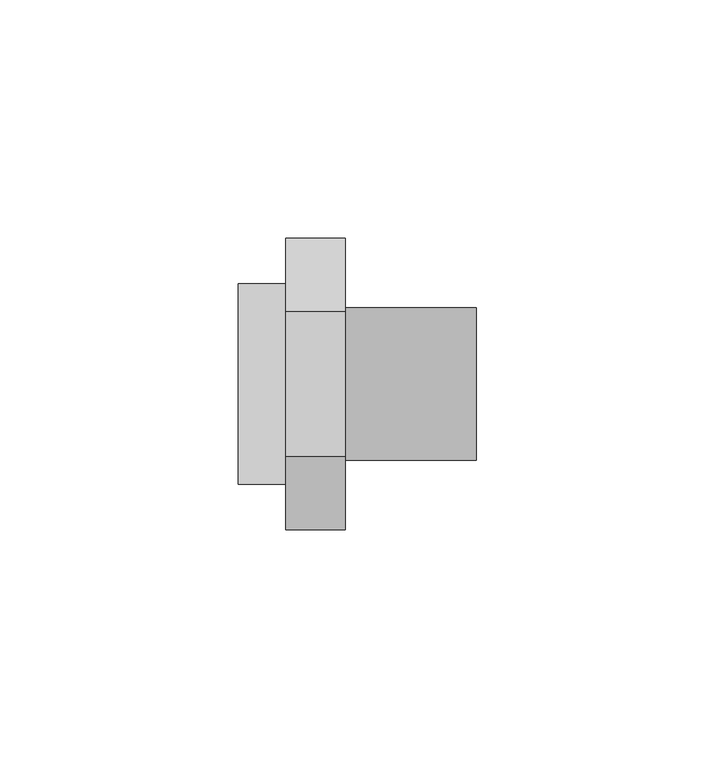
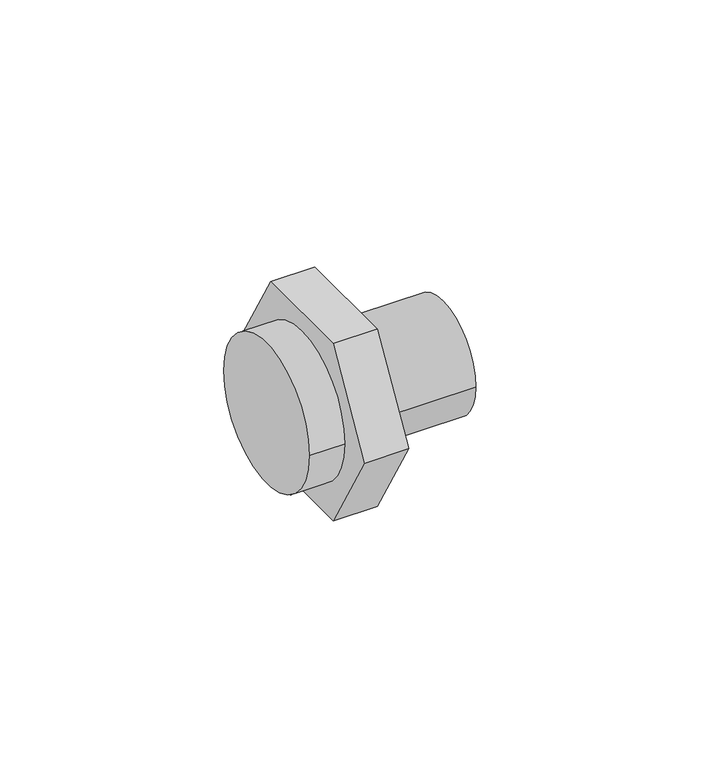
"""IFC4 building model written with IfcOpenShell, lengths in millimetres: pipe fitting geometry, 01101008 : Uniões múltiplas F/M/F."""

from ifc_helpers import new_model, si_unit, point, frame, origin, origin_2d, place, context, project, spatial, polyline, circle_curve, trimmed, segment, composite_curve, outline, extrude, source, transform, mapped, element, save


def pipe_fitting_64ba8c29(model_context):
    return source(origin(), model_context, "Body", "SweptSolid", [
        extrude(outline(composite_curve([segment(trimmed(circle_curve(origin_2d(), 21.0), [point((21.0, 0.0))], [point((-21.0, 0.0))], False, "CARTESIAN"), True, "CONTINUOUS"), segment(trimmed(circle_curve(origin_2d(), 21.0), [point((-21.0, 0.0))], [point((21.0, 0.0))], False, "CARTESIAN"), True, "CONTINUOUS")], self_intersect=False)), frame((0.0, 0.0, 0.0), z_axis=(1.0, 0.0, 0.0), x_axis=(0.0, 1.0, 0.0)), (0.0, 0.0, 1.0), 10.0),
        extrude(outline(polyline([(-15.2997821, 26.5), (15.2997821, 26.5), (30.5995643, 0.0), (15.2997821, -26.5), (-15.2997821, -26.5), (-30.5995643, 0.0), (-15.2997821, 26.5)])), frame((10.0, 0.0, 0.0), z_axis=(1.0, 0.0, 0.0), x_axis=(0.0, 1.0, 0.0)), (0.0, 0.0, 1.0), 12.5),
        extrude(outline(composite_curve([segment(trimmed(circle_curve(origin_2d(), 16.0), [point((-16.0, 0.0))], [point((16.0, 0.0))], False, "CARTESIAN"), True, "CONTINUOUS"), segment(trimmed(circle_curve(origin_2d(), 16.0), [point((16.0, 0.0))], [point((-16.0, 0.0))], False, "CARTESIAN"), True, "CONTINUOUS")], self_intersect=False)), frame((22.5, 0.0, 0.0), z_axis=(1.0, 0.0, 0.0), x_axis=(0.0, 1.0, 0.0)), (0.0, 0.0, 1.0), 27.5),
    ])


if __name__ == "__main__":
    model = new_model("IFC4")
    model_context = context("Model", 3, world=origin())
    ifc_project = project(units=[si_unit("LENGTHUNIT", "METRE", prefix="MILLI")], contexts=[model_context])
    site = spatial("IfcSite", under=ifc_project)
    building = spatial("IfcBuilding", under=site)
    placement = place(None, origin())
    pipe_fitting_shape = pipe_fitting_64ba8c29(model_context)
    element("IfcPipeFitting", 1, ObjectType="01101008 : Uniões múltiplas F/M/F", at=placement, inside=building, context=model_context, shape_type="MappedRepresentation", body=[
        mapped(pipe_fitting_shape, transform((0.0, 0.0, 0.0), x_axis=(1.0, 0.0, 0.0), y_axis=(0.0, 1.0, 0.0), z_axis=(0.0, 0.0, 1.0))),
    ])
    save(model, "model.ifc")
